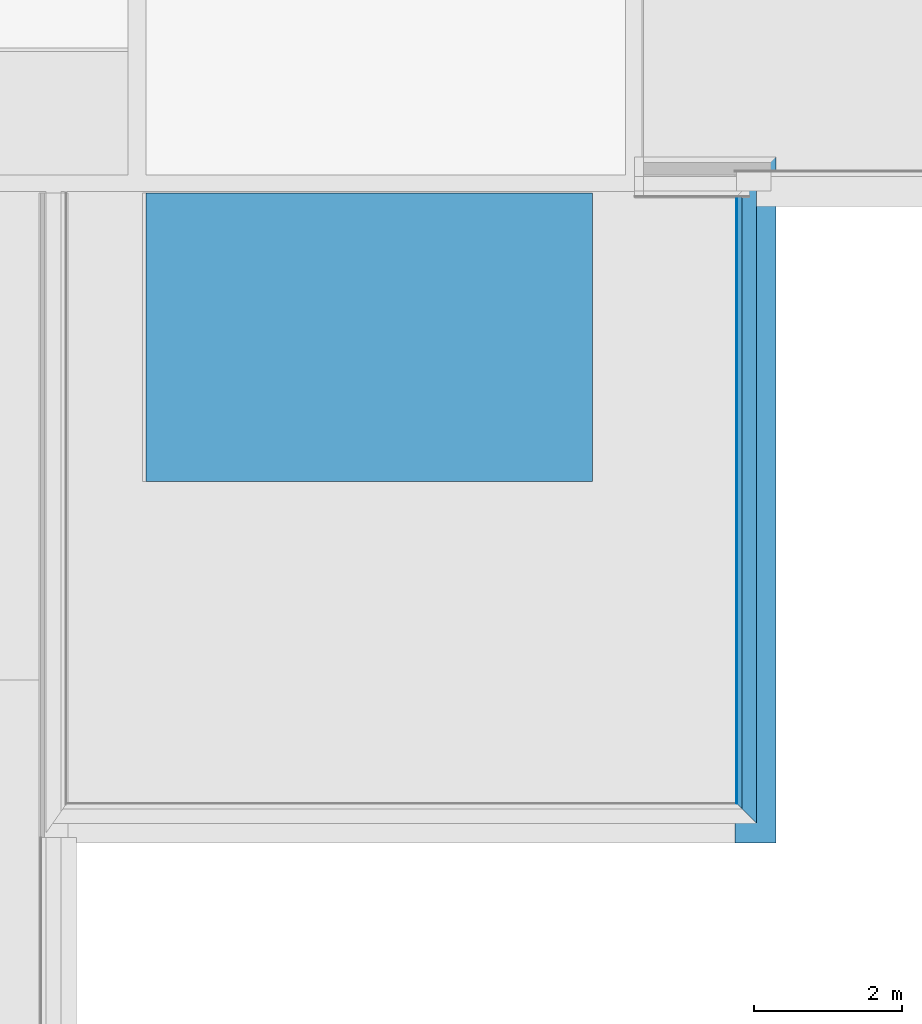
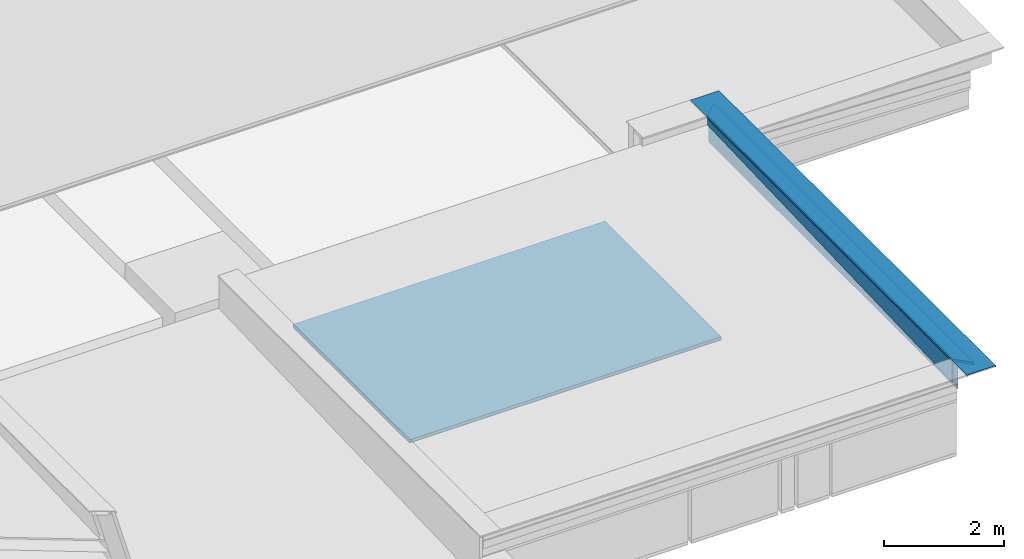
# One storey, part 9 of 13: 6 building element parts, 2 elements without a shape of their own.
"""IFC2X3 building model written with IfcOpenShell, lengths in metres."""

from ifc_helpers import new_model, entity, si_unit, converted_unit, derived_unit, money_unit, direction, frame, origin_with_axes, place, context, subcontext, project, spatial, polyline, outline, extrude, boolean, faceted_brep, material, type_object, element, aggregate, save


model = new_model("IFC2X3")

# Units and contexts
model_context = context("Model", 3, precision=1e-05, world=origin_with_axes(), true_north=direction((0.0, 1.0)))
body_context = subcontext(model_context, "Body", "Model", "MODEL_VIEW")
ifc_project = project(units=[si_unit("LENGTHUNIT", "METRE"), si_unit("AREAUNIT", "SQUARE_METRE"), si_unit("VOLUMEUNIT", "CUBIC_METRE"), converted_unit("PLANEANGLEUNIT", "DEGREE", entity("IfcPlaneAngleMeasure", 0.0174532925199), si_unit("PLANEANGLEUNIT", "RADIAN"), dimensions=[0, 0, 0, 0, 0, 0, 0]), money_unit("CHF"), converted_unit("TIMEUNIT", "Year", entity("IfcTimeMeasure", 31556926.0), si_unit("TIMEUNIT", "SECOND"), dimensions=[0, 0, 1, 0, 0, 0, 0]), si_unit("MASSUNIT", "GRAM", prefix="KILO"), si_unit("THERMODYNAMICTEMPERATUREUNIT", "DEGREE_CELSIUS"), si_unit("LUMINOUSINTENSITYUNIT", "LUMEN"), si_unit("ENERGYUNIT", "JOULE", prefix="MEGA"), derived_unit("THERMALCONDUCTANCEUNIT", [(si_unit("POWERUNIT", "WATT"), 1), (si_unit("LENGTHUNIT", "METRE"), -1), (si_unit("THERMODYNAMICTEMPERATUREUNIT", "KELVIN"), -1)]), derived_unit("SPECIFICHEATCAPACITYUNIT", [(si_unit("ENERGYUNIT", "JOULE"), 1), (si_unit("MASSUNIT", "GRAM", prefix="KILO"), -1), (si_unit("THERMODYNAMICTEMPERATUREUNIT", "KELVIN"), -1)]), derived_unit("MASSDENSITYUNIT", [(si_unit("MASSUNIT", "GRAM", prefix="KILO"), 1), (si_unit("VOLUMEUNIT", "CUBIC_METRE"), -1)])], contexts=[model_context])

# Site, building, storey
site_placement = place(None, origin_with_axes())
site = spatial("IfcSite", under=ifc_project, at=site_placement, Name="Site", CompositionType="ELEMENT")
building_placement = place(site_placement, origin_with_axes())
building = spatial("IfcBuilding", under=site, at=building_placement, Name="Bâtiment", CompositionType="ELEMENT")
storey_placement = place(building_placement, frame((0.0, 0.0, 3.0), z_axis=(0.0, 0.0, 1.0), x_axis=(1.0, 0.0, 0.0)))
storey = spatial("IfcBuildingStorey", under=building, at=storey_placement, Name="Toitures", CompositionType="ELEMENT", Elevation=3.0)

# Slab, building element parts
slab_type = type_object("IfcSlabType", Name="Plafond dalles minérale 2570", PredefinedType="FLOOR")
slab_placement = place(storey_placement, frame((31.6294697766, 14.8800000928, 2.47), z_axis=(0.0, 0.0, 1.0), x_axis=(1.0, 0.0, 0.0)))
slab = element("IfcSlab", 1, at=slab_placement, inside=storey, type_object=slab_type, Name="Faux plafonds suspendus", PredefinedType="FLOOR")
ifc_material_1 = material(Name="Plaque fibre-gypse")
building_element_part_1_placement = place(slab_placement, origin_with_axes())
building_element_part_1 = element("IfcBuildingElementPart", 2, at=building_element_part_1_placement, material=ifc_material_1, Name="Plaque fibre-gypse", context=body_context, shape_type="CSG", body=[
    boolean("DIFFERENCE", extrude(outline(polyline([(0.0, 0.0), (-6.03000008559, -1.07356783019e-07), (-6.03000001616, -3.89987444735), (6.94324988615e-08, -3.89987433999), (0.0, 0.0)])), frame((0.0, 0.0, -2.57), z_axis=(0.0, 0.0, 1.0), x_axis=(1.0, 0.0, 0.0)), (0.0, 0.0, 1.0), 0.01), faceted_brep([(6.94324988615e-08, -3.89987433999, -1.69219559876), (0.0, 0.0, -1.55569999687), (0.0, 0.0, 0.0), (6.94324988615e-08, -3.89987433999, 0.0), (-6.03000008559, -1.07356783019e-07, -1.55570000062), (-6.03000001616, -3.89987444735, -1.69219560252), (-6.03000008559, -1.07356783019e-07, 0.0), (-6.03000001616, -3.89987444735, 0.0)], [[[0, 1, 2, 3]], [[4, 1, 0, 5]], [[1, 4, 6, 2]], [[7, 3, 2, 6]], [[5, 0, 3, 7]], [[4, 5, 7, 6]]])),
])
ifc_material_2 = material(Name="Aluminium")
building_element_part_2_placement = place(slab_placement, origin_with_axes())
building_element_part_2 = element("IfcBuildingElementPart", 3, at=building_element_part_2_placement, material=ifc_material_2, Name="Aluminium", context=body_context, shape_type="CSG", body=[
    boolean("DIFFERENCE", extrude(outline(polyline([(0.0, 0.0), (-6.03000008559, -1.07356783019e-07), (-6.03000001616, -3.89987444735), (6.94324988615e-08, -3.89987433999), (0.0, 0.0)])), frame((0.0, 0.0, -2.56), z_axis=(0.0, 0.0, 1.0), x_axis=(1.0, 0.0, 0.0)), (0.0, 0.0, 1.0), 0.06), faceted_brep([(6.94324988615e-08, -3.89987433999, -1.69219559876), (0.0, 0.0, -1.55569999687), (0.0, 0.0, 0.0), (6.94324988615e-08, -3.89987433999, 0.0), (-6.03000008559, -1.07356783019e-07, -1.55570000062), (-6.03000001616, -3.89987444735, -1.69219560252), (-6.03000008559, -1.07356783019e-07, 0.0), (-6.03000001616, -3.89987444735, 0.0)], [[[0, 1, 2, 3]], [[4, 1, 0, 5]], [[1, 4, 6, 2]], [[7, 3, 2, 6]], [[5, 0, 3, 7]], [[4, 5, 7, 6]]])),
])
aggregate(slab, [building_element_part_1, building_element_part_2])

# Beam, building element parts
beam_type = type_object("IfcBeamType", Name="Couvertine mur bardage 555 x 590", PredefinedType="BEAM")
beam_placement = place(storey_placement, frame((33.7494697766, 6.46012566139, 1.47), z_axis=(0.0, 0.0, 1.0), x_axis=(1.0, 0.0, 0.0)))
beam = element("IfcBeam", 4, at=beam_placement, inside=storey, type_object=beam_type, Name="POUTRE-002", ObjectType="BEAM")
ifc_material_3 = material(Name="Etanchéité")
building_element_part_3_placement = place(beam_placement, origin_with_axes())
building_element_part_3 = element("IfcBuildingElementPart", 5, at=building_element_part_3_placement, material=ifc_material_3, Name="Etanchéité", context=body_context, shape_type="CSG", body=[
    boolean("DIFFERENCE", boolean("DIFFERENCE", boolean("DIFFERENCE", boolean("DIFFERENCE", boolean("DIFFERENCE", boolean("DIFFERENCE", extrude(outline(polyline([(-0.175, -0.589639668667), (-0.165000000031, -0.589639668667), (-0.165000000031, -0.0549999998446), (-0.165000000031, -0.005), (-0.175, -0.005), (-0.175, -0.589639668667)])), frame((0.0, 8.90302000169, 0.0), z_axis=(0.0, -1.0, 0.0), x_axis=(1.0, 0.0, 0.0)), (0.0, 0.0, 1.0), 9.26304000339), faceted_brep([(-0.175, 8.368, -0.005), (-0.165000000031, 8.37799999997, -0.005), (-0.165000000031, 8.90302000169, -0.005), (-0.175, 8.90302000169, -0.005), (-0.165000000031, 8.37799999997, -0.0549999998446), (-0.175, 8.368, -0.187289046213), (-0.165000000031, 8.37799999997, -0.186939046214), (-0.165000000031, 8.90302000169, -0.0549999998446), (-0.165000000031, 8.90302000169, -0.589639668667), (-0.175, 8.90302000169, -0.589639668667), (-0.175, -0.360020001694, -0.589639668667), (-0.175, -0.360020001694, -0.005), (-0.175, 0.175, -0.005), (-0.175, 0.175, -0.474044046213), (-0.165000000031, 0.165000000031, -0.474394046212), (-0.165000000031, 0.165000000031, -0.0549999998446), (-0.165000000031, -0.360020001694, -0.0549999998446), (-0.165000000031, -0.360020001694, -0.589639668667), (-0.165000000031, -0.360020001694, -0.005), (-0.165000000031, 0.165000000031, -0.005)], [[[0, 1, 2, 3]], [[4, 1, 0, 5, 6]], [[1, 4, 7, 2]], [[7, 8, 9, 3, 2]], [[5, 0, 3, 9, 10, 11, 12, 13]], [[14, 6, 5, 13]], [[14, 15, 16, 17, 8, 7, 4, 6]], [[17, 10, 9, 8]], [[18, 11, 10, 17, 16]], [[19, 12, 11, 18]], [[12, 19, 15, 14, 13]], [[15, 19, 18, 16]]])), faceted_brep([(0.360000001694, -0.360020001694, -0.029999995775), (0.360000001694, -0.360000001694, -0.029999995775), (0.360000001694, -0.360000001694, 3.12924708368e-09), (0.360000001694, -0.360020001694, 3.12924708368e-09), (0.354999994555, -0.360020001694, -0.029999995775), (0.354999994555, -0.354999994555, -0.029999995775), (-0.195, 0.195, -0.029999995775), (-0.195, 0.195, 3.12924708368e-09), (0.354999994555, -0.354999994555, -0.00499999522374), (0.1, -0.1, -0.005), (-0.165, 0.165, -0.005), (-0.174999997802, 0.174999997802, -0.00500000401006), (-0.190000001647, 0.190000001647, -0.00499999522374), (-0.190000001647, 0.190000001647, -0.029999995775), (-0.195, -0.360020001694, 3.12924708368e-09), (-0.195, -0.360020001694, -0.029999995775), (-0.190000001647, -0.360020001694, -0.029999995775), (-0.190000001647, -0.360020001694, -0.00499999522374), (-0.174999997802, -0.360020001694, -0.00500000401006), (-0.165000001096, -0.360020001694, -0.00500000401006), (0.0999999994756, -0.360020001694, -0.00499999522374), (0.354999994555, -0.360020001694, -0.00499999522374)], [[[0, 1, 2, 3]], [[4, 5, 1, 0]], [[6, 7, 2, 1, 5, 8, 9, 10, 11, 12, 13]], [[3, 2, 7, 14]], [[3, 14, 15, 16, 17, 18, 19, 20, 21, 4, 0]], [[21, 8, 5, 4]], [[14, 7, 6, 15]], [[20, 9, 8, 21]], [[19, 10, 9, 20]], [[18, 11, 10, 19]], [[17, 12, 11, 18]], [[16, 13, 12, 17]], [[15, 6, 13, 16]]])), faceted_brep([(-0.195, 8.90302000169, 3.12924708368e-09), (-0.195, 8.348, 3.12924708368e-09), (0.360000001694, 8.90300000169, 3.12924708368e-09), (0.360000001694, 8.90302000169, 3.12924708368e-09), (-0.195, 8.90302000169, -0.029999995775), (-0.195, 8.348, -0.029999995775), (0.354999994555, 8.89799999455, -0.029999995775), (0.360000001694, 8.90300000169, -0.029999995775), (-0.190000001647, 8.35299999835, -0.029999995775), (-0.190000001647, 8.35299999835, -0.00499999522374), (-0.174999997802, 8.3680000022, -0.00500000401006), (-0.165, 8.378, -0.005), (0.1, 8.643, -0.005), (0.354999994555, 8.89799999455, -0.00499999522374), (0.360000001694, 8.90302000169, -0.029999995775), (-0.190000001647, 8.90302000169, -0.00499999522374), (-0.190000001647, 8.90302000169, -0.029999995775), (0.354999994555, 8.90302000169, -0.029999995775), (0.354999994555, 8.90302000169, -0.00499999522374), (0.0999999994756, 8.90302000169, -0.00499999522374), (-0.165000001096, 8.90302000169, -0.00500000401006), (-0.174999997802, 8.90302000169, -0.00500000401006)], [[[0, 1, 2, 3]], [[4, 5, 1, 0]], [[6, 7, 2, 1, 5, 8, 9, 10, 11, 12, 13]], [[3, 2, 7, 14]], [[15, 16, 4, 0, 3, 14, 17, 18, 19, 20, 21]], [[16, 8, 5, 4]], [[14, 7, 6, 17]], [[15, 9, 8, 16]], [[21, 10, 9, 15]], [[20, 11, 10, 21]], [[19, 12, 11, 20]], [[18, 13, 12, 19]], [[17, 6, 13, 18]]])), faceted_brep([(-0.165, 8.90302000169, -0.0549999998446), (-0.165, 8.378, -0.0549999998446), (-0.0999999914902, 8.44300000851, -0.0549999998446), (-0.0999999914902, 8.90302000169, -0.0549999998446), (-0.165, 0.165, -0.474394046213), (-0.165, 8.378, -0.186939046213), (-0.165, 8.90302000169, -0.589639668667), (-0.165, -0.360020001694, -0.589639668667), (-0.165, -0.360020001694, -0.0549999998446), (-0.165, 0.165, -0.0549999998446), (-0.119999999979, 8.42300000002, -0.589639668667), (-0.0999999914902, 8.44300000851, -0.589639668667), (-0.12, 8.423, -0.185364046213), (-0.0999999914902, 8.90302000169, -0.589639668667), (-0.12, 0.12, -0.475969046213), (-0.119999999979, 0.119999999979, -0.589639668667), (-0.0999999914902, 0.0999999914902, -0.589639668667), (-0.0999999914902, -0.360020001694, -0.589639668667), (-0.0999999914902, -0.360020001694, -0.0549999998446), (-0.0999999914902, 0.0999999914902, -0.0549999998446)], [[[0, 1, 2, 3]], [[4, 5, 1, 0, 6, 7, 8, 9]], [[10, 11, 2, 1, 5, 12]], [[3, 2, 11, 13]], [[6, 0, 3, 13]], [[12, 5, 4, 14]], [[10, 15, 16, 17, 7, 6, 13, 11]], [[7, 17, 18, 8]], [[18, 19, 9, 8]], [[4, 9, 19, 16, 15, 14]], [[14, 15, 10, 12]], [[17, 16, 19, 18]]])), faceted_brep([(0.1, -0.360020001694, -0.055), (0.1, -0.1, -0.055), (0.1, -0.1, -0.005), (0.1, -0.360020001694, -0.005), (-0.0999999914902, -0.360020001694, -0.0549999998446), (-0.0999999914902, 0.0999999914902, -0.0549999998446), (-0.165, 0.165, -0.005), (-0.165, 0.165, -0.055), (-0.165, -0.360020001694, -0.005), (-0.165, -0.360020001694, -0.055)], [[[0, 1, 2, 3]], [[4, 5, 1, 0]], [[6, 2, 1, 5, 7]], [[3, 2, 6, 8]], [[4, 0, 3, 8, 9]], [[9, 7, 5, 4]], [[8, 6, 7, 9]]])), faceted_brep([(-0.165, 8.90302000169, -0.005), (-0.165, 8.378, -0.005), (0.1, 8.643, -0.005), (0.1, 8.90302000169, -0.005), (-0.165, 8.90302000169, -0.055), (-0.165, 8.378, -0.055), (-0.0999999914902, 8.44300000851, -0.0549999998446), (0.1, 8.643, -0.055), (0.1, 8.90302000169, -0.055), (-0.0999999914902, 8.90302000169, -0.0549999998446)], [[[0, 1, 2, 3]], [[4, 5, 1, 0]], [[6, 7, 2, 1, 5]], [[3, 2, 7, 8]], [[4, 0, 3, 8, 9]], [[9, 6, 5, 4]], [[8, 7, 6, 9]]])),
])
building_element_part_4_placement = place(beam_placement, origin_with_axes())
building_element_part_4 = element("IfcBuildingElementPart", 6, at=building_element_part_4_placement, material=ifc_material_2, Name="Aluminium", context=body_context, shape_type="CSG", body=[
    boolean("DIFFERENCE", boolean("DIFFERENCE", boolean("DIFFERENCE", boolean("DIFFERENCE", boolean("DIFFERENCE", boolean("DIFFERENCE", extrude(outline(polyline([(-0.195, -0.029999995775), (-0.190000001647, -0.029999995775), (-0.190000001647, -0.00499999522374), (-0.174999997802, -0.00500000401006), (-0.165000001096, -0.00500000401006), (0.0999999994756, -0.00499999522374), (0.354999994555, -0.00499999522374), (0.354999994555, -0.029999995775), (0.360000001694, -0.029999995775), (0.360000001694, 3.12924697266e-09), (-0.195, 3.12924697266e-09), (-0.195, -0.029999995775)])), frame((0.0, 8.90302000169, 0.0), z_axis=(0.0, -1.0, 0.0), x_axis=(1.0, 0.0, 0.0)), (0.0, 0.0, 1.0), 9.26304000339), faceted_brep([(-0.175, 8.368, -0.005), (-0.165000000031, 8.37799999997, -0.005), (-0.165000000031, 8.90302000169, -0.005), (-0.175, 8.90302000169, -0.005), (-0.165000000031, 8.37799999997, -0.0549999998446), (-0.175, 8.368, -0.187289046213), (-0.165000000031, 8.37799999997, -0.186939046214), (-0.165000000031, 8.90302000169, -0.0549999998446), (-0.165000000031, 8.90302000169, -0.589639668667), (-0.175, 8.90302000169, -0.589639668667), (-0.175, -0.360020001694, -0.589639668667), (-0.175, -0.360020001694, -0.005), (-0.175, 0.175, -0.005), (-0.175, 0.175, -0.474044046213), (-0.165000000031, 0.165000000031, -0.474394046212), (-0.165000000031, 0.165000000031, -0.0549999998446), (-0.165000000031, -0.360020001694, -0.0549999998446), (-0.165000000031, -0.360020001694, -0.589639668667), (-0.165000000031, -0.360020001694, -0.005), (-0.165000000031, 0.165000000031, -0.005)], [[[0, 1, 2, 3]], [[4, 1, 0, 5, 6]], [[1, 4, 7, 2]], [[7, 8, 9, 3, 2]], [[5, 0, 3, 9, 10, 11, 12, 13]], [[14, 6, 5, 13]], [[14, 15, 16, 17, 8, 7, 4, 6]], [[17, 10, 9, 8]], [[18, 11, 10, 17, 16]], [[19, 12, 11, 18]], [[12, 19, 15, 14, 13]], [[15, 19, 18, 16]]])), faceted_brep([(0.360000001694, -0.360020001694, -0.029999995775), (0.360000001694, -0.360000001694, -0.029999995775), (0.360000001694, -0.360000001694, 3.12924708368e-09), (0.360000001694, -0.360020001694, 3.12924708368e-09), (0.354999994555, -0.360020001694, -0.029999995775), (0.354999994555, -0.354999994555, -0.029999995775), (-0.195, 0.195, -0.029999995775), (-0.195, 0.195, 3.12924708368e-09), (0.354999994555, -0.354999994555, -0.00499999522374), (0.1, -0.1, -0.005), (-0.165, 0.165, -0.005), (-0.174999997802, 0.174999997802, -0.00500000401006), (-0.190000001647, 0.190000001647, -0.00499999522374), (-0.190000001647, 0.190000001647, -0.029999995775), (-0.195, -0.360020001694, 3.12924708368e-09), (-0.195, -0.360020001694, -0.029999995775), (-0.190000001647, -0.360020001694, -0.029999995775), (-0.190000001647, -0.360020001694, -0.00499999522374), (-0.174999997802, -0.360020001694, -0.00500000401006), (-0.165000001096, -0.360020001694, -0.00500000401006), (0.0999999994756, -0.360020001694, -0.00499999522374), (0.354999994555, -0.360020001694, -0.00499999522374)], [[[0, 1, 2, 3]], [[4, 5, 1, 0]], [[6, 7, 2, 1, 5, 8, 9, 10, 11, 12, 13]], [[3, 2, 7, 14]], [[3, 14, 15, 16, 17, 18, 19, 20, 21, 4, 0]], [[21, 8, 5, 4]], [[14, 7, 6, 15]], [[20, 9, 8, 21]], [[19, 10, 9, 20]], [[18, 11, 10, 19]], [[17, 12, 11, 18]], [[16, 13, 12, 17]], [[15, 6, 13, 16]]])), faceted_brep([(-0.195, 8.90302000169, 3.12924708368e-09), (-0.195, 8.348, 3.12924708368e-09), (0.360000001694, 8.90300000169, 3.12924708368e-09), (0.360000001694, 8.90302000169, 3.12924708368e-09), (-0.195, 8.90302000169, -0.029999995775), (-0.195, 8.348, -0.029999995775), (0.354999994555, 8.89799999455, -0.029999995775), (0.360000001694, 8.90300000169, -0.029999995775), (-0.190000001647, 8.35299999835, -0.029999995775), (-0.190000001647, 8.35299999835, -0.00499999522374), (-0.174999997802, 8.3680000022, -0.00500000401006), (-0.165, 8.378, -0.005), (0.1, 8.643, -0.005), (0.354999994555, 8.89799999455, -0.00499999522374), (0.360000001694, 8.90302000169, -0.029999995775), (-0.190000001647, 8.90302000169, -0.00499999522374), (-0.190000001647, 8.90302000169, -0.029999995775), (0.354999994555, 8.90302000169, -0.029999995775), (0.354999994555, 8.90302000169, -0.00499999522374), (0.0999999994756, 8.90302000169, -0.00499999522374), (-0.165000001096, 8.90302000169, -0.00500000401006), (-0.174999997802, 8.90302000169, -0.00500000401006)], [[[0, 1, 2, 3]], [[4, 5, 1, 0]], [[6, 7, 2, 1, 5, 8, 9, 10, 11, 12, 13]], [[3, 2, 7, 14]], [[15, 16, 4, 0, 3, 14, 17, 18, 19, 20, 21]], [[16, 8, 5, 4]], [[14, 7, 6, 17]], [[15, 9, 8, 16]], [[21, 10, 9, 15]], [[20, 11, 10, 21]], [[19, 12, 11, 20]], [[18, 13, 12, 19]], [[17, 6, 13, 18]]])), faceted_brep([(-0.165, 8.90302000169, -0.0549999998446), (-0.165, 8.378, -0.0549999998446), (-0.0999999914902, 8.44300000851, -0.0549999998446), (-0.0999999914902, 8.90302000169, -0.0549999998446), (-0.165, 0.165, -0.474394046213), (-0.165, 8.378, -0.186939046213), (-0.165, 8.90302000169, -0.589639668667), (-0.165, -0.360020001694, -0.589639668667), (-0.165, -0.360020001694, -0.0549999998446), (-0.165, 0.165, -0.0549999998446), (-0.119999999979, 8.42300000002, -0.589639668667), (-0.0999999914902, 8.44300000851, -0.589639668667), (-0.12, 8.423, -0.185364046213), (-0.0999999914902, 8.90302000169, -0.589639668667), (-0.12, 0.12, -0.475969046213), (-0.119999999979, 0.119999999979, -0.589639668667), (-0.0999999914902, 0.0999999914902, -0.589639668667), (-0.0999999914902, -0.360020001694, -0.589639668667), (-0.0999999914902, -0.360020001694, -0.0549999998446), (-0.0999999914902, 0.0999999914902, -0.0549999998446)], [[[0, 1, 2, 3]], [[4, 5, 1, 0, 6, 7, 8, 9]], [[10, 11, 2, 1, 5, 12]], [[3, 2, 11, 13]], [[6, 0, 3, 13]], [[12, 5, 4, 14]], [[10, 15, 16, 17, 7, 6, 13, 11]], [[7, 17, 18, 8]], [[18, 19, 9, 8]], [[4, 9, 19, 16, 15, 14]], [[14, 15, 10, 12]], [[17, 16, 19, 18]]])), faceted_brep([(0.1, -0.360020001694, -0.055), (0.1, -0.1, -0.055), (0.1, -0.1, -0.005), (0.1, -0.360020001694, -0.005), (-0.0999999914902, -0.360020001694, -0.0549999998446), (-0.0999999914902, 0.0999999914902, -0.0549999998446), (-0.165, 0.165, -0.005), (-0.165, 0.165, -0.055), (-0.165, -0.360020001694, -0.005), (-0.165, -0.360020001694, -0.055)], [[[0, 1, 2, 3]], [[4, 5, 1, 0]], [[6, 2, 1, 5, 7]], [[3, 2, 6, 8]], [[4, 0, 3, 8, 9]], [[9, 7, 5, 4]], [[8, 6, 7, 9]]])), faceted_brep([(-0.165, 8.90302000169, -0.005), (-0.165, 8.378, -0.005), (0.1, 8.643, -0.005), (0.1, 8.90302000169, -0.005), (-0.165, 8.90302000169, -0.055), (-0.165, 8.378, -0.055), (-0.0999999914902, 8.44300000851, -0.0549999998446), (0.1, 8.643, -0.055), (0.1, 8.90302000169, -0.055), (-0.0999999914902, 8.90302000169, -0.0549999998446)], [[[0, 1, 2, 3]], [[4, 5, 1, 0]], [[6, 7, 2, 1, 5]], [[3, 2, 7, 8]], [[4, 0, 3, 8, 9]], [[9, 6, 5, 4]], [[8, 7, 6, 9]]])),
])
ifc_material_4 = material(Name="Isolation - Polyuréthane (extérieur)")
building_element_part_5_placement = place(beam_placement, origin_with_axes())
building_element_part_5 = element("IfcBuildingElementPart", 7, at=building_element_part_5_placement, material=ifc_material_4, Name="Isolation - Polyuréthane (extérieur)", context=body_context, shape_type="CSG", body=[
    boolean("DIFFERENCE", boolean("DIFFERENCE", boolean("DIFFERENCE", boolean("DIFFERENCE", boolean("DIFFERENCE", boolean("DIFFERENCE", extrude(outline(polyline([(-0.0999999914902, -0.0549999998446), (-0.165, -0.0549999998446), (-0.165, -0.589639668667), (-0.0999999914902, -0.589639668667), (-0.0999999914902, -0.0549999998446)])), frame((0.0, 8.90302000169, 0.0), z_axis=(0.0, -1.0, 0.0), x_axis=(1.0, 0.0, 0.0)), (0.0, 0.0, 1.0), 9.26304000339), faceted_brep([(-0.175, 8.368, -0.005), (-0.165000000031, 8.37799999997, -0.005), (-0.165000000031, 8.90302000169, -0.005), (-0.175, 8.90302000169, -0.005), (-0.165000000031, 8.37799999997, -0.0549999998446), (-0.175, 8.368, -0.187289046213), (-0.165000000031, 8.37799999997, -0.186939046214), (-0.165000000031, 8.90302000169, -0.0549999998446), (-0.165000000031, 8.90302000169, -0.589639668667), (-0.175, 8.90302000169, -0.589639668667), (-0.175, -0.360020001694, -0.589639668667), (-0.175, -0.360020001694, -0.005), (-0.175, 0.175, -0.005), (-0.175, 0.175, -0.474044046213), (-0.165000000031, 0.165000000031, -0.474394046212), (-0.165000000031, 0.165000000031, -0.0549999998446), (-0.165000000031, -0.360020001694, -0.0549999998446), (-0.165000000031, -0.360020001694, -0.589639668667), (-0.165000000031, -0.360020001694, -0.005), (-0.165000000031, 0.165000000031, -0.005)], [[[0, 1, 2, 3]], [[4, 1, 0, 5, 6]], [[1, 4, 7, 2]], [[7, 8, 9, 3, 2]], [[5, 0, 3, 9, 10, 11, 12, 13]], [[14, 6, 5, 13]], [[14, 15, 16, 17, 8, 7, 4, 6]], [[17, 10, 9, 8]], [[18, 11, 10, 17, 16]], [[19, 12, 11, 18]], [[12, 19, 15, 14, 13]], [[15, 19, 18, 16]]])), faceted_brep([(0.360000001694, -0.360020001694, -0.029999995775), (0.360000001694, -0.360000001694, -0.029999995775), (0.360000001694, -0.360000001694, 3.12924708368e-09), (0.360000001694, -0.360020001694, 3.12924708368e-09), (0.354999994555, -0.360020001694, -0.029999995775), (0.354999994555, -0.354999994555, -0.029999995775), (-0.195, 0.195, -0.029999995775), (-0.195, 0.195, 3.12924708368e-09), (0.354999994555, -0.354999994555, -0.00499999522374), (0.1, -0.1, -0.005), (-0.165, 0.165, -0.005), (-0.174999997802, 0.174999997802, -0.00500000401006), (-0.190000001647, 0.190000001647, -0.00499999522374), (-0.190000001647, 0.190000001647, -0.029999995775), (-0.195, -0.360020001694, 3.12924708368e-09), (-0.195, -0.360020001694, -0.029999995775), (-0.190000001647, -0.360020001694, -0.029999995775), (-0.190000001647, -0.360020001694, -0.00499999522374), (-0.174999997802, -0.360020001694, -0.00500000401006), (-0.165000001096, -0.360020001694, -0.00500000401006), (0.0999999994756, -0.360020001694, -0.00499999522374), (0.354999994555, -0.360020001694, -0.00499999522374)], [[[0, 1, 2, 3]], [[4, 5, 1, 0]], [[6, 7, 2, 1, 5, 8, 9, 10, 11, 12, 13]], [[3, 2, 7, 14]], [[3, 14, 15, 16, 17, 18, 19, 20, 21, 4, 0]], [[21, 8, 5, 4]], [[14, 7, 6, 15]], [[20, 9, 8, 21]], [[19, 10, 9, 20]], [[18, 11, 10, 19]], [[17, 12, 11, 18]], [[16, 13, 12, 17]], [[15, 6, 13, 16]]])), faceted_brep([(-0.195, 8.90302000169, 3.12924708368e-09), (-0.195, 8.348, 3.12924708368e-09), (0.360000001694, 8.90300000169, 3.12924708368e-09), (0.360000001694, 8.90302000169, 3.12924708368e-09), (-0.195, 8.90302000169, -0.029999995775), (-0.195, 8.348, -0.029999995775), (0.354999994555, 8.89799999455, -0.029999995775), (0.360000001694, 8.90300000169, -0.029999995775), (-0.190000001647, 8.35299999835, -0.029999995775), (-0.190000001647, 8.35299999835, -0.00499999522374), (-0.174999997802, 8.3680000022, -0.00500000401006), (-0.165, 8.378, -0.005), (0.1, 8.643, -0.005), (0.354999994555, 8.89799999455, -0.00499999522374), (0.360000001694, 8.90302000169, -0.029999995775), (-0.190000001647, 8.90302000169, -0.00499999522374), (-0.190000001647, 8.90302000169, -0.029999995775), (0.354999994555, 8.90302000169, -0.029999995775), (0.354999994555, 8.90302000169, -0.00499999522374), (0.0999999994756, 8.90302000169, -0.00499999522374), (-0.165000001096, 8.90302000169, -0.00500000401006), (-0.174999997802, 8.90302000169, -0.00500000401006)], [[[0, 1, 2, 3]], [[4, 5, 1, 0]], [[6, 7, 2, 1, 5, 8, 9, 10, 11, 12, 13]], [[3, 2, 7, 14]], [[15, 16, 4, 0, 3, 14, 17, 18, 19, 20, 21]], [[16, 8, 5, 4]], [[14, 7, 6, 17]], [[15, 9, 8, 16]], [[21, 10, 9, 15]], [[20, 11, 10, 21]], [[19, 12, 11, 20]], [[18, 13, 12, 19]], [[17, 6, 13, 18]]])), faceted_brep([(-0.165, 8.90302000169, -0.0549999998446), (-0.165, 8.378, -0.0549999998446), (-0.0999999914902, 8.44300000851, -0.0549999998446), (-0.0999999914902, 8.90302000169, -0.0549999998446), (-0.165, 0.165, -0.474394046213), (-0.165, 8.378, -0.186939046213), (-0.165, 8.90302000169, -0.589639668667), (-0.165, -0.360020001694, -0.589639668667), (-0.165, -0.360020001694, -0.0549999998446), (-0.165, 0.165, -0.0549999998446), (-0.119999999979, 8.42300000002, -0.589639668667), (-0.0999999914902, 8.44300000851, -0.589639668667), (-0.12, 8.423, -0.185364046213), (-0.0999999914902, 8.90302000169, -0.589639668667), (-0.12, 0.12, -0.475969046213), (-0.119999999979, 0.119999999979, -0.589639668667), (-0.0999999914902, 0.0999999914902, -0.589639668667), (-0.0999999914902, -0.360020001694, -0.589639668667), (-0.0999999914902, -0.360020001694, -0.0549999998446), (-0.0999999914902, 0.0999999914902, -0.0549999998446)], [[[0, 1, 2, 3]], [[4, 5, 1, 0, 6, 7, 8, 9]], [[10, 11, 2, 1, 5, 12]], [[3, 2, 11, 13]], [[6, 0, 3, 13]], [[12, 5, 4, 14]], [[10, 15, 16, 17, 7, 6, 13, 11]], [[7, 17, 18, 8]], [[18, 19, 9, 8]], [[4, 9, 19, 16, 15, 14]], [[14, 15, 10, 12]], [[17, 16, 19, 18]]])), faceted_brep([(0.1, -0.360020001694, -0.055), (0.1, -0.1, -0.055), (0.1, -0.1, -0.005), (0.1, -0.360020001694, -0.005), (-0.0999999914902, -0.360020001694, -0.0549999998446), (-0.0999999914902, 0.0999999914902, -0.0549999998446), (-0.165, 0.165, -0.005), (-0.165, 0.165, -0.055), (-0.165, -0.360020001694, -0.005), (-0.165, -0.360020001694, -0.055)], [[[0, 1, 2, 3]], [[4, 5, 1, 0]], [[6, 2, 1, 5, 7]], [[3, 2, 6, 8]], [[4, 0, 3, 8, 9]], [[9, 7, 5, 4]], [[8, 6, 7, 9]]])), faceted_brep([(-0.165, 8.90302000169, -0.005), (-0.165, 8.378, -0.005), (0.1, 8.643, -0.005), (0.1, 8.90302000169, -0.005), (-0.165, 8.90302000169, -0.055), (-0.165, 8.378, -0.055), (-0.0999999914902, 8.44300000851, -0.0549999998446), (0.1, 8.643, -0.055), (0.1, 8.90302000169, -0.055), (-0.0999999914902, 8.90302000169, -0.0549999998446)], [[[0, 1, 2, 3]], [[4, 5, 1, 0]], [[6, 7, 2, 1, 5]], [[3, 2, 7, 8]], [[4, 0, 3, 8, 9]], [[9, 6, 5, 4]], [[8, 7, 6, 9]]])),
])
building_element_part_6_placement = place(beam_placement, origin_with_axes())
building_element_part_6 = element("IfcBuildingElementPart", 8, at=building_element_part_6_placement, material=ifc_material_4, Name="Isolation - Polyuréthane (extérieur)", context=body_context, shape_type="CSG", body=[
    boolean("DIFFERENCE", boolean("DIFFERENCE", boolean("DIFFERENCE", boolean("DIFFERENCE", boolean("DIFFERENCE", boolean("DIFFERENCE", extrude(outline(polyline([(0.1, -0.005), (-0.165, -0.005), (-0.165, -0.055), (-0.0999999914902, -0.0549999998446), (0.1, -0.055), (0.1, -0.005)])), frame((0.0, 8.90302000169, 0.0), z_axis=(0.0, -1.0, 0.0), x_axis=(1.0, 0.0, 0.0)), (0.0, 0.0, 1.0), 9.26304000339), faceted_brep([(-0.175, 8.368, -0.005), (-0.165000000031, 8.37799999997, -0.005), (-0.165000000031, 8.90302000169, -0.005), (-0.175, 8.90302000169, -0.005), (-0.165000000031, 8.37799999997, -0.0549999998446), (-0.175, 8.368, -0.187289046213), (-0.165000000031, 8.37799999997, -0.186939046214), (-0.165000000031, 8.90302000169, -0.0549999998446), (-0.165000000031, 8.90302000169, -0.589639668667), (-0.175, 8.90302000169, -0.589639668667), (-0.175, -0.360020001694, -0.589639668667), (-0.175, -0.360020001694, -0.005), (-0.175, 0.175, -0.005), (-0.175, 0.175, -0.474044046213), (-0.165000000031, 0.165000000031, -0.474394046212), (-0.165000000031, 0.165000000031, -0.0549999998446), (-0.165000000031, -0.360020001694, -0.0549999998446), (-0.165000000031, -0.360020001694, -0.589639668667), (-0.165000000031, -0.360020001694, -0.005), (-0.165000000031, 0.165000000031, -0.005)], [[[0, 1, 2, 3]], [[4, 1, 0, 5, 6]], [[1, 4, 7, 2]], [[7, 8, 9, 3, 2]], [[5, 0, 3, 9, 10, 11, 12, 13]], [[14, 6, 5, 13]], [[14, 15, 16, 17, 8, 7, 4, 6]], [[17, 10, 9, 8]], [[18, 11, 10, 17, 16]], [[19, 12, 11, 18]], [[12, 19, 15, 14, 13]], [[15, 19, 18, 16]]])), faceted_brep([(0.360000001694, -0.360020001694, -0.029999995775), (0.360000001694, -0.360000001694, -0.029999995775), (0.360000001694, -0.360000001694, 3.12924708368e-09), (0.360000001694, -0.360020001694, 3.12924708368e-09), (0.354999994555, -0.360020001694, -0.029999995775), (0.354999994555, -0.354999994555, -0.029999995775), (-0.195, 0.195, -0.029999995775), (-0.195, 0.195, 3.12924708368e-09), (0.354999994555, -0.354999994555, -0.00499999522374), (0.1, -0.1, -0.005), (-0.165, 0.165, -0.005), (-0.174999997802, 0.174999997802, -0.00500000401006), (-0.190000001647, 0.190000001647, -0.00499999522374), (-0.190000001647, 0.190000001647, -0.029999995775), (-0.195, -0.360020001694, 3.12924708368e-09), (-0.195, -0.360020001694, -0.029999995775), (-0.190000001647, -0.360020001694, -0.029999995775), (-0.190000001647, -0.360020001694, -0.00499999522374), (-0.174999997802, -0.360020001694, -0.00500000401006), (-0.165000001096, -0.360020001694, -0.00500000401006), (0.0999999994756, -0.360020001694, -0.00499999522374), (0.354999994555, -0.360020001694, -0.00499999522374)], [[[0, 1, 2, 3]], [[4, 5, 1, 0]], [[6, 7, 2, 1, 5, 8, 9, 10, 11, 12, 13]], [[3, 2, 7, 14]], [[3, 14, 15, 16, 17, 18, 19, 20, 21, 4, 0]], [[21, 8, 5, 4]], [[14, 7, 6, 15]], [[20, 9, 8, 21]], [[19, 10, 9, 20]], [[18, 11, 10, 19]], [[17, 12, 11, 18]], [[16, 13, 12, 17]], [[15, 6, 13, 16]]])), faceted_brep([(-0.195, 8.90302000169, 3.12924708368e-09), (-0.195, 8.348, 3.12924708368e-09), (0.360000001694, 8.90300000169, 3.12924708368e-09), (0.360000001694, 8.90302000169, 3.12924708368e-09), (-0.195, 8.90302000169, -0.029999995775), (-0.195, 8.348, -0.029999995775), (0.354999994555, 8.89799999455, -0.029999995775), (0.360000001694, 8.90300000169, -0.029999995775), (-0.190000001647, 8.35299999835, -0.029999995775), (-0.190000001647, 8.35299999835, -0.00499999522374), (-0.174999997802, 8.3680000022, -0.00500000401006), (-0.165, 8.378, -0.005), (0.1, 8.643, -0.005), (0.354999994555, 8.89799999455, -0.00499999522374), (0.360000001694, 8.90302000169, -0.029999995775), (-0.190000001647, 8.90302000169, -0.00499999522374), (-0.190000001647, 8.90302000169, -0.029999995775), (0.354999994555, 8.90302000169, -0.029999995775), (0.354999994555, 8.90302000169, -0.00499999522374), (0.0999999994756, 8.90302000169, -0.00499999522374), (-0.165000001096, 8.90302000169, -0.00500000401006), (-0.174999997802, 8.90302000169, -0.00500000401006)], [[[0, 1, 2, 3]], [[4, 5, 1, 0]], [[6, 7, 2, 1, 5, 8, 9, 10, 11, 12, 13]], [[3, 2, 7, 14]], [[15, 16, 4, 0, 3, 14, 17, 18, 19, 20, 21]], [[16, 8, 5, 4]], [[14, 7, 6, 17]], [[15, 9, 8, 16]], [[21, 10, 9, 15]], [[20, 11, 10, 21]], [[19, 12, 11, 20]], [[18, 13, 12, 19]], [[17, 6, 13, 18]]])), faceted_brep([(-0.165, 8.90302000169, -0.0549999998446), (-0.165, 8.378, -0.0549999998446), (-0.0999999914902, 8.44300000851, -0.0549999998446), (-0.0999999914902, 8.90302000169, -0.0549999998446), (-0.165, 0.165, -0.474394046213), (-0.165, 8.378, -0.186939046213), (-0.165, 8.90302000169, -0.589639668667), (-0.165, -0.360020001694, -0.589639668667), (-0.165, -0.360020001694, -0.0549999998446), (-0.165, 0.165, -0.0549999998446), (-0.119999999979, 8.42300000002, -0.589639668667), (-0.0999999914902, 8.44300000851, -0.589639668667), (-0.12, 8.423, -0.185364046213), (-0.0999999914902, 8.90302000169, -0.589639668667), (-0.12, 0.12, -0.475969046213), (-0.119999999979, 0.119999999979, -0.589639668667), (-0.0999999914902, 0.0999999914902, -0.589639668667), (-0.0999999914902, -0.360020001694, -0.589639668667), (-0.0999999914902, -0.360020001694, -0.0549999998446), (-0.0999999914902, 0.0999999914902, -0.0549999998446)], [[[0, 1, 2, 3]], [[4, 5, 1, 0, 6, 7, 8, 9]], [[10, 11, 2, 1, 5, 12]], [[3, 2, 11, 13]], [[6, 0, 3, 13]], [[12, 5, 4, 14]], [[10, 15, 16, 17, 7, 6, 13, 11]], [[7, 17, 18, 8]], [[18, 19, 9, 8]], [[4, 9, 19, 16, 15, 14]], [[14, 15, 10, 12]], [[17, 16, 19, 18]]])), faceted_brep([(0.1, -0.360020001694, -0.055), (0.1, -0.1, -0.055), (0.1, -0.1, -0.005), (0.1, -0.360020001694, -0.005), (-0.0999999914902, -0.360020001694, -0.0549999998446), (-0.0999999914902, 0.0999999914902, -0.0549999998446), (-0.165, 0.165, -0.005), (-0.165, 0.165, -0.055), (-0.165, -0.360020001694, -0.005), (-0.165, -0.360020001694, -0.055)], [[[0, 1, 2, 3]], [[4, 5, 1, 0]], [[6, 2, 1, 5, 7]], [[3, 2, 6, 8]], [[4, 0, 3, 8, 9]], [[9, 7, 5, 4]], [[8, 6, 7, 9]]])), faceted_brep([(-0.165, 8.90302000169, -0.005), (-0.165, 8.378, -0.005), (0.1, 8.643, -0.005), (0.1, 8.90302000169, -0.005), (-0.165, 8.90302000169, -0.055), (-0.165, 8.378, -0.055), (-0.0999999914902, 8.44300000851, -0.0549999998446), (0.1, 8.643, -0.055), (0.1, 8.90302000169, -0.055), (-0.0999999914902, 8.90302000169, -0.0549999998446)], [[[0, 1, 2, 3]], [[4, 5, 1, 0]], [[6, 7, 2, 1, 5]], [[3, 2, 7, 8]], [[4, 0, 3, 8, 9]], [[9, 6, 5, 4]], [[8, 7, 6, 9]]])),
])
aggregate(beam, [building_element_part_3, building_element_part_4, building_element_part_5, building_element_part_6])

save(model, "model.ifc")
